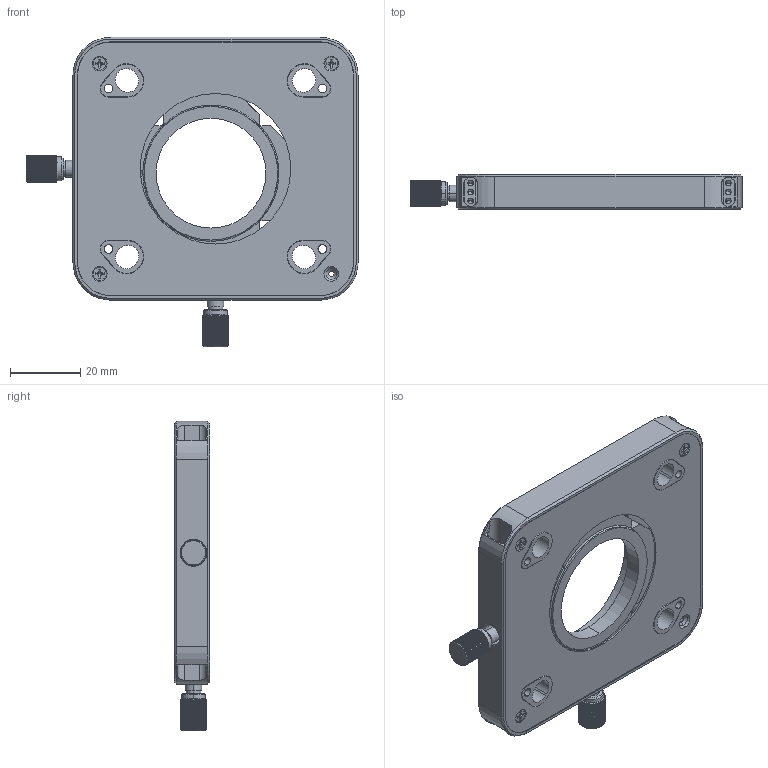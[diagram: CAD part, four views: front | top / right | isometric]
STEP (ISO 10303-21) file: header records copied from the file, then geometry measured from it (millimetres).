
FILE_DESCRIPTION (( 'STEP AP214' ), '1' );
FILE_NAME ('FLX-BXY-2200-M32 (CATALOG MODEL).STEP', '2026-08-04T21:16:01', ( '' ), ( '' ), 'SwSTEP 2.0', 'SolidWorks 2025', '' );
FILE_SCHEMA (( 'AUTOMOTIVE_DESIGN' ));
Length unit declared in the file: inch
Products named in the file (1): FLX-BXY-2200-M32 (CATALOG MODEL)
Bounding box: 94.67 x 10.01 x 88.19 mm (x, y, z)
Volume: 28887.8 mm3; surface area: 36255.3 mm2
Topology: 18 solids, 18 shells, 1496 faces, 4173 edges, 2689 vertices
Faces by surface type: cylinder 689, plane 512, cone 268, bspline 16, torus 7, sphere 4
Entity records: 66501 total; most frequent: CARTESIAN_POINT 22037, ORIENTED_EDGE 8206, DIRECTION 6903, EDGE_CURVE 4103, VERTEX_POINT 2683, AXIS2_PLACEMENT_3D 2583, VECTOR 1737, LINE 1737
